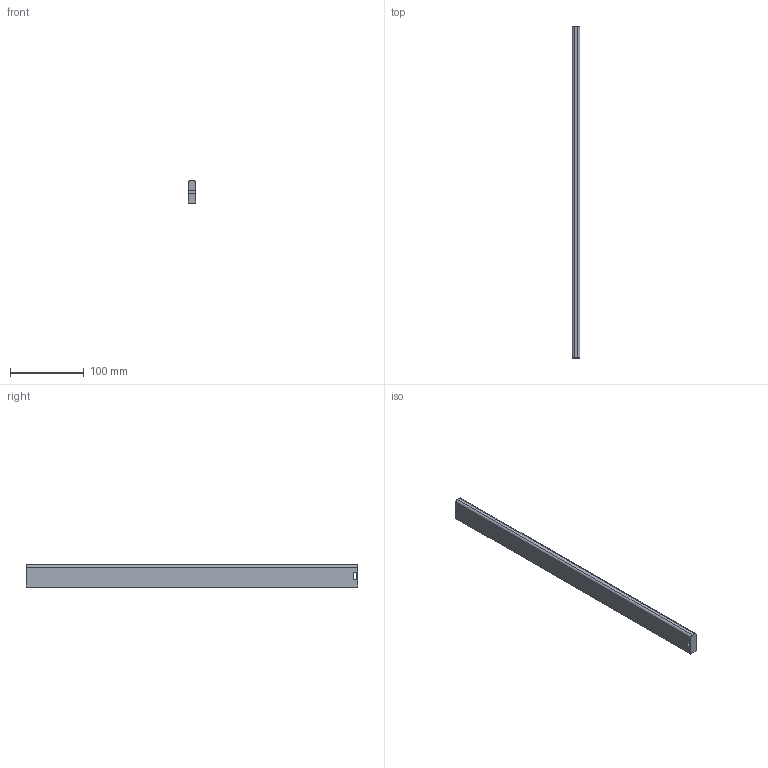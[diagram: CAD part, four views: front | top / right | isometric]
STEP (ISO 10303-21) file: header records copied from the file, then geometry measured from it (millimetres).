
FILE_DESCRIPTION (( 'STEP AP214' ), '1' );
FILE_NAME ('_Seitenreling_S610000200_RL450.step', '2010-09-06T14:51:19', ( 'grass' ), ( '' ), 'SwSTEP 2.0', 'SolidWorks 2010', '' );
FILE_SCHEMA (( 'AUTOMOTIVE_DESIGN' ));
Length unit declared in the file: millimetre
Products named in the file (1): _Seitenreling_S610000200_RL450
Bounding box: 10.5 x 450 x 30 mm (x, y, z)
Volume: 139543.1 mm3; surface area: 36094.1 mm2
Topology: 1 solids, 1 shells, 12 faces, 30 edges, 20 vertices
Faces by surface type: plane 8, cylinder 4
Entity records: 400 total; most frequent: DIRECTION 64, CARTESIAN_POINT 63, ORIENTED_EDGE 60, EDGE_CURVE 30, LINE 22, VECTOR 22, AXIS2_PLACEMENT_3D 21, VERTEX_POINT 20
